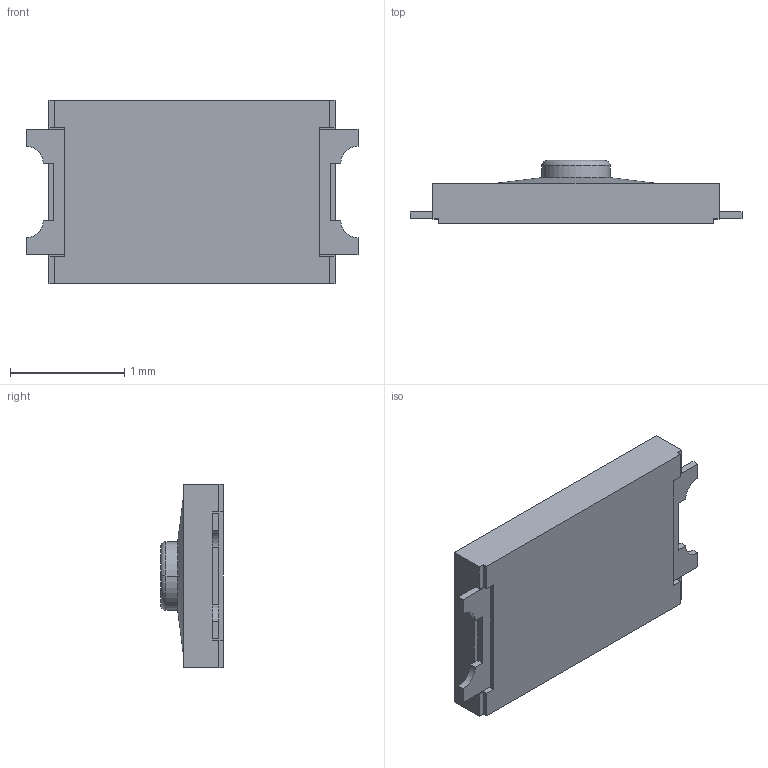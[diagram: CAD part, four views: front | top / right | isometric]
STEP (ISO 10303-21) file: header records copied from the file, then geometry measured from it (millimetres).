
FILE_DESCRIPTION((''),'2;1');
FILE_NAME('JQA1625F-B0051-01FG-1-103_ASM','2026-05-20T17:07:30',('Admin'),(''),'CREO PARAMETRIC BY PTC INC, 2019224','CREO PARAMETRIC BY PTC INC, 2019224','');
FILE_SCHEMA(('AUTOMOTIVE_DESIGN { 1 0 10303 214 1 1 1 1 }'));
Length unit declared in the file: millimetre
Products named in the file (2): JQA1625F-B0051-01FG-1-103_01; JQA1625F-B0051-01FG-1-103_ASM
Assembly tree (1 placements, depth 2):
  JQA1625F-B0051-01FG-1-103_ASM
    JQA1625F-B0051-01FG-1-103_01
Bounding box: 2.9 x 0.55 x 1.6 mm (x, y, z)
Volume: 1.5 mm3; surface area: 11.6 mm2
Topology: 1 solids, 1 shells, 57 faces, 159 edges, 110 vertices
Faces by surface type: plane 47, cylinder 6, cone 2, torus 2
Entity records: 2760 total; most frequent: CARTESIAN_POINT 322, DIRECTION 303, ORIENTED_EDGE 300, PRESENTATION_STYLE_ASSIGNMENT 194, STYLED_ITEM 162, CURVE_STYLE 161, EDGE_CURVE 150, VECTOR 141
